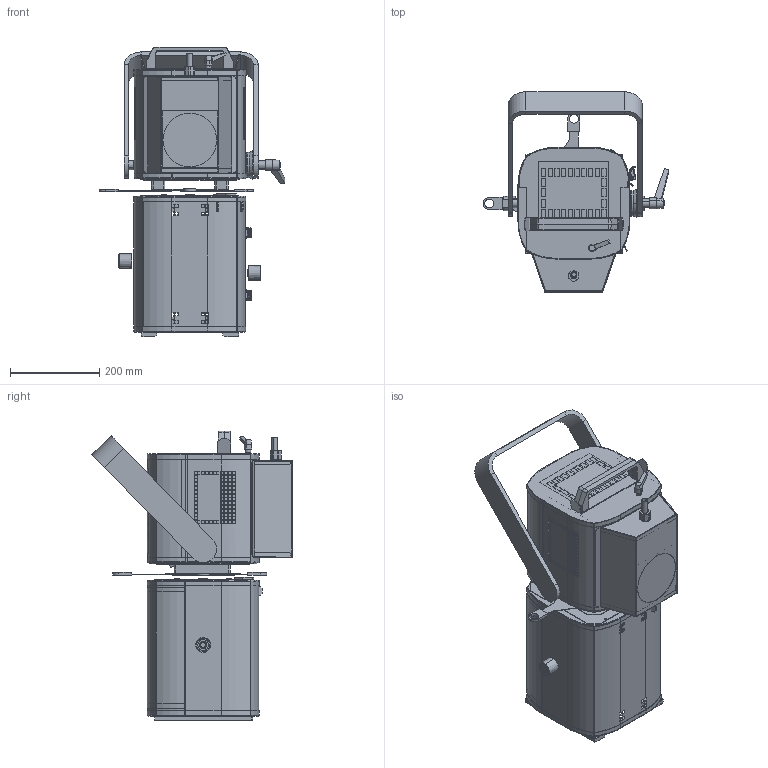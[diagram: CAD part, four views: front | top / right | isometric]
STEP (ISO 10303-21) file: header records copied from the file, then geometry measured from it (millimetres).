
FILE_DESCRIPTION (( 'STEP AP203' ), '1' );
FILE_NAME ('713.STEP', '2020-02-20T07:11:39', ( '' ), ( '' ), 'SwSTEP 2.0', 'SolidWorks 2019', '' );
FILE_SCHEMA (( 'CONFIG_CONTROL_DESIGN' ));
Length unit declared in the file: millimetre
Products named in the file (1): 713
Bounding box: 415.35 x 447.66 x 648.57 mm (x, y, z)
Volume: 3197724.4 mm3; surface area: 2439920.6 mm2
Topology: 58 solids, 58 shells, 3228 faces, 8027 edges, 5075 vertices
Faces by surface type: plane 2361, cylinder 642, torus 142, cone 75, bspline 8
Entity records: 97088 total; most frequent: CARTESIAN_POINT 18835, DIRECTION 16233, ORIENTED_EDGE 16050, EDGE_CURVE 8025, VECTOR 5815, LINE 5815, AXIS2_PLACEMENT_3D 5209, VERTEX_POINT 5075
